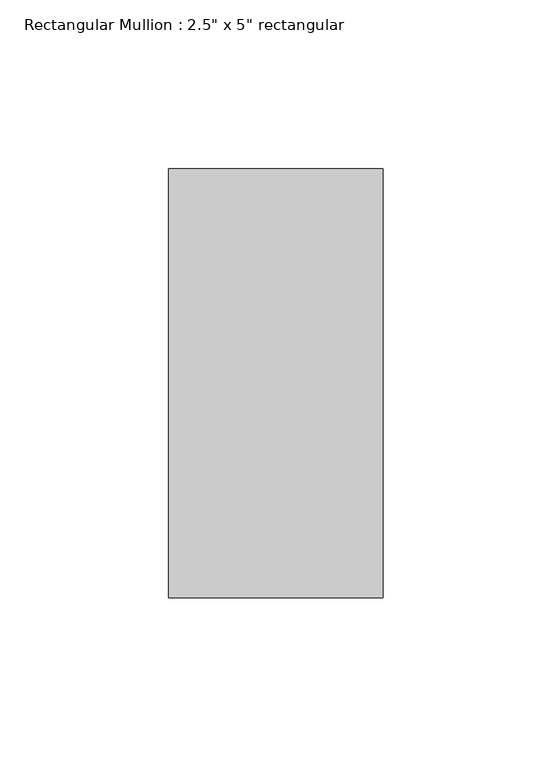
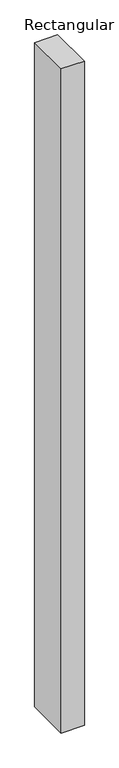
"""IFC4 building model written with IfcOpenShell, lengths in millimetres: member geometry."""

from ifc_helpers import new_model, si_unit, frame, origin, place, context, project, spatial, polyline, outline, extrude, source, transform, mapped, element, save


def member_7a85b04f(model_context):
    return source(origin(), model_context, "Body", "SweptSolid", [
        extrude(outline(polyline([(31.75, 63.5), (31.75, -63.5), (-31.75, -63.5), (-31.75, 63.5), (31.75, 63.5)])), frame((0.0, 0.0, -1936.75), z_axis=(0.0, 0.0, 1.0), x_axis=(1.0, 0.0, 0.0)), (0.0, 0.0, 1.0), 1936.75),
    ])


if __name__ == "__main__":
    model = new_model("IFC4")
    model_context = context("Model", 3, world=origin())
    ifc_project = project(units=[si_unit("LENGTHUNIT", "METRE", prefix="MILLI")], contexts=[model_context])
    site = spatial("IfcSite", under=ifc_project)
    building = spatial("IfcBuilding", under=site)
    placement = place(None, origin())
    member_shape = member_7a85b04f(model_context)
    element("IfcMember", 1, ObjectType="Rectangular Mullion : 2.5\" x 5\" rectangular", at=placement, inside=building, context=model_context, shape_type="MappedRepresentation", body=[
        mapped(member_shape, transform((0.0, 0.0, 0.0), x_axis=(1.0, 0.0, 0.0), y_axis=(0.0, 1.0, 0.0), z_axis=(0.0, 0.0, 1.0))),
    ])
    save(model, "model.ifc")
